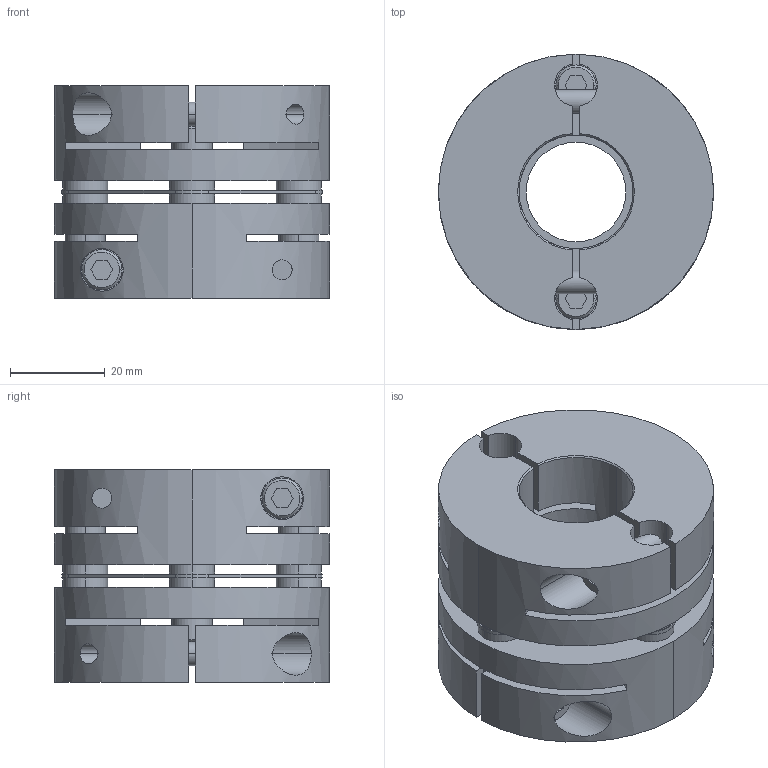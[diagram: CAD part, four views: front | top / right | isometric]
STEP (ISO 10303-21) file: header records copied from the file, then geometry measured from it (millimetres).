
FILE_DESCRIPTION((''),'2;1');
FILE_NAME('LAS-58C-24×24.stp','2011-08-09T15:36:24',(''),(''),'AutoCAD STEP 2000i','AutoCAD 2000i',', , ');
FILE_SCHEMA(('CONFIG_CONTROL_DESIGN'));
Length unit declared in the file: millimetre
Products named in the file (7): LAS-58C-19×19; 忣兜1; LA-5802-D19-1; LA-5802-D19; LA-5802-D12-1; LA-5802-D12; LAS58-ITA
Assembly tree (6 placements, depth 2):
  LAS-58C-19×19
    忣兜1
    LA-5802-D19-1
    LA-5802-D19
    LA-5802-D12-1
    LA-5802-D12
    LAS58-ITA
Bounding box: 58 x 58 x 44.8 mm (x, y, z)
Volume: 79793.6 mm3; surface area: 31978.7 mm2
Topology: 1 solids, 1 shells, 240 faces, 636 edges, 416 vertices
Faces by surface type: plane 116, cylinder 96, cone 28
Entity records: 8567 total; most frequent: CARTESIAN_POINT 2199, DIRECTION 1338, ORIENTED_EDGE 1280, EDGE_CURVE 640, AXIS2_PLACEMENT_3D 491, VERTEX_POINT 416, VECTOR 356, LINE 356
